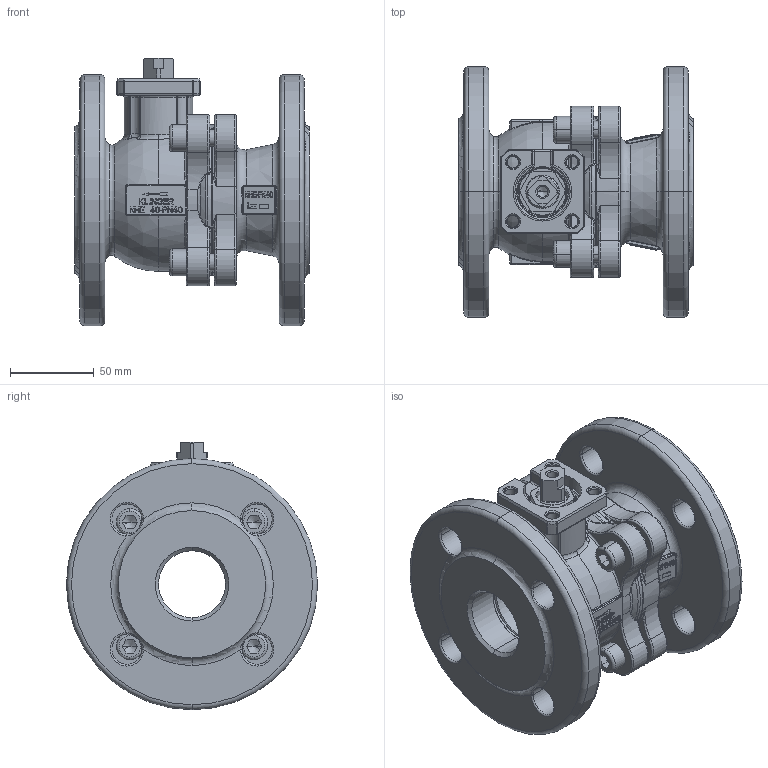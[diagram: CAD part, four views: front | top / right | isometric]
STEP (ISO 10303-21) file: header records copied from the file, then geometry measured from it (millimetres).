
FILE_DESCRIPTION((''),'2;1');
FILE_NAME('KHEFK040P040_XC_OHG','2020-03-30T15:10:44',('santag'),('KLINGER'),'CREO PARAMETRIC BY PTC INC, 2018420','CREO PARAMETRIC BY PTC INC, 2018420','');
FILE_SCHEMA(('AUTOMOTIVE_DESIGN { 1 0 10303 214 1 1 1 1 }'));
Products named in the file (1): KHEFK040P040_XC_OHG
Bounding box: 140 x 150 x 159.8 mm (x, y, z)
Volume: 959652.2 mm3; surface area: 201548 mm2
Topology: 1 solids, 2 shells, 2166 faces, 5650 edges, 3585 vertices
Faces by surface type: plane 1375, cylinder 260, torus 247, bspline 165, cone 99, sphere 20
Entity records: 81345 total; most frequent: CARTESIAN_POINT 27964, ORIENTED_EDGE 11280, DIRECTION 10551, EDGE_CURVE 5640, VECTOR 3970, LINE 3970, VERTEX_POINT 3585, AXIS2_PLACEMENT_3D 3289
